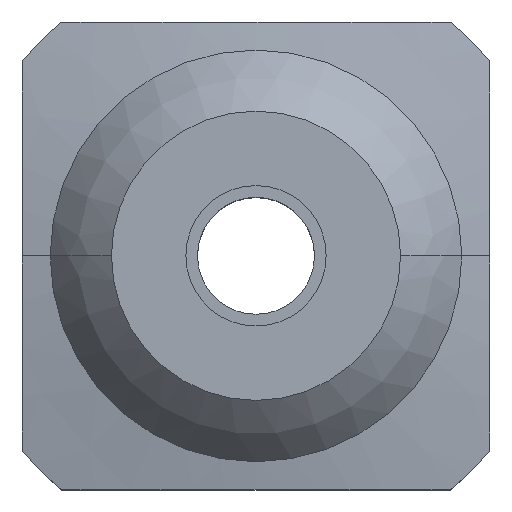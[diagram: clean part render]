
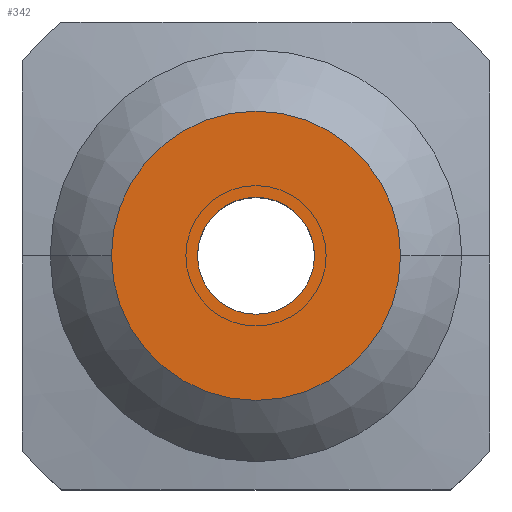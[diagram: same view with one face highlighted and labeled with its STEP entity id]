
A CAD part, top view. The second image highlights one B-rep face of the part: STEP entity #342.
In plain terms, the highlighted planar face has unit normal (0, 0, 1).
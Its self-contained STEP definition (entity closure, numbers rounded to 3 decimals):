
#1=CARTESIAN_POINT('',(0.,0.,7.5));
#2=DIRECTION('',(0.,0.,-1.));
#3=DIRECTION('',(1.,0.,0.));
#4=AXIS2_PLACEMENT_3D('',#1,#2,#3);
#6=CARTESIAN_POINT('',(0.,0.,7.5));
#7=DIRECTION('',(0.,0.,-1.));
#8=DIRECTION('',(-1.,0.,0.));
#9=AXIS2_PLACEMENT_3D('',#6,#7,#8);
#21=CARTESIAN_POINT('',(0.,0.,7.5));
#22=DIRECTION('',(0.,0.,-1.));
#23=DIRECTION('',(1.,0.,0.));
#24=AXIS2_PLACEMENT_3D('',#21,#22,#23);
#26=CARTESIAN_POINT('',(0.,0.,7.5));
#27=DIRECTION('',(0.,0.,1.));
#28=DIRECTION('',(1.,0.,0.));
#29=AXIS2_PLACEMENT_3D('',#26,#27,#28);
#309=CARTESIAN_POINT('',(6.182,0.,7.5));
#310=VERTEX_POINT('',#309);
#311=CARTESIAN_POINT('',(-6.182,0.,7.5));
#312=VERTEX_POINT('',#311);
#321=CARTESIAN_POINT('',(2.5,0.,7.5));
#322=CARTESIAN_POINT('',(-2.5,0.,7.5));
#323=VERTEX_POINT('',#321);
#324=VERTEX_POINT('',#322);
#325=CARTESIAN_POINT('',(0.,0.,7.5));
#326=DIRECTION('',(0.,0.,1.));
#327=DIRECTION('',(-1.,0.,0.));
#328=AXIS2_PLACEMENT_3D('',#325,#326,#327);
#329=PLANE('',#328);
#331=ORIENTED_EDGE('',*,*,#330,.T.);
#333=ORIENTED_EDGE('',*,*,#332,.F.);
#334=EDGE_LOOP('',(#331,#333));
#335=FACE_OUTER_BOUND('',#334,.F.);
#337=ORIENTED_EDGE('',*,*,#336,.F.);
#339=ORIENTED_EDGE('',*,*,#338,.F.);
#340=EDGE_LOOP('',(#337,#339));
#341=FACE_BOUND('',#340,.F.);
#342=ADVANCED_FACE('',(#335,#341),#329,.T.);
#5=CIRCLE('',#4,2.5);
#10=CIRCLE('',#9,2.5);
#25=CIRCLE('',#24,6.182);
#30=CIRCLE('',#29,6.182);
#330=EDGE_CURVE('',#310,#312,#25,.T.);
#332=EDGE_CURVE('',#310,#312,#30,.T.);
#336=EDGE_CURVE('',#323,#324,#5,.T.);
#338=EDGE_CURVE('',#324,#323,#10,.T.);
